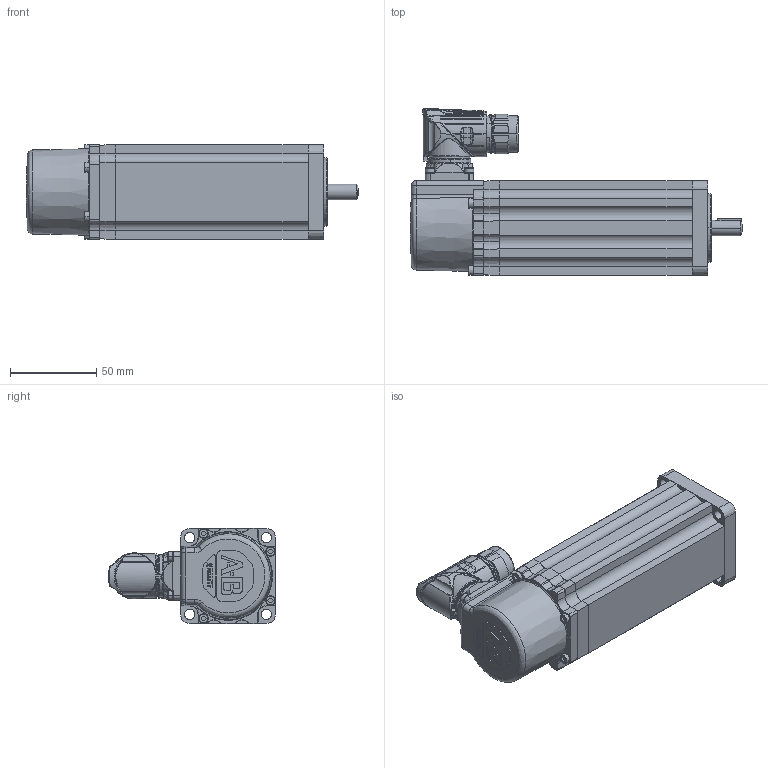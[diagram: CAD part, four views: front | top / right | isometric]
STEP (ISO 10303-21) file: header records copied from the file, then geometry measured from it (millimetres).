
FILE_DESCRIPTION (( 'STEP AP214' ), '1' );
FILE_NAME ('Rockwell Automation-$PARTNUMBER.STEP', '2014-02-13T18:26:56', ( 'Windows User' ), ( '' ), 'SwSTEP 2.0', 'SolidWorks 2014', '' );
FILE_SCHEMA (( 'AUTOMOTIVE_DESIGN' ));
Length unit declared in the file: inch
Products named in the file (23): Rockwell Automation-$PARTNUMBER_Rockwell Automation-VPL-x0633x-xJx2xx_Part21_0633-K; Rockwell Automation-$PARTNUMBER_Rockwell Automation-VPL-x0633x-xJx2xx_PRT0016_Shaft_3_2; Rockwell Automation-$PARTNUMBER_Rockwell Automation-VPL-x0633x-xJx2xx_ASM0006_ASM; Rockwell Automation-$PARTNUMBER; Rockwell Automation-$PARTNUMBER_Rockwell Automation-VPL-x0633x-xJx2xx_ASM0007_ASM; Rockwell Automation-$PARTNUMBER_Rockwell Automation-VPL-x0633x-xJx2xx_ASM0009_ASM; Rockwell Automation-$PARTNUMBER_Rockwell Automation-VPL-x0633x-xJx2xx_PRT0019; Rockwell Automation-$PARTNUMBER_Rockwell Automation-VPL-x0633x-xJx2xx_PRT0018; Rockwell Automation-$PARTNUMBER_Rockwell Automation-VPL-x0633x-xJx2xx_PRT0015; Rockwell Automation-$PARTNUMBER_Rockwell Automation-VPL-x0633x-xJx2xx_ASM0002_ASM; Rockwell Automation-$PARTNUMBER_Rockwell Automation-VPL-x0633x-xJx2xx_ASM0005_ASM; Rockwell Automation-$PARTNUMBER_Rockwell Automation-VPL-x0633x-xJx2xx_PRT0011; Rockwell Automation-$PARTNUMBER_Rockwell Automation-VPL-x0633x-xJx2xx_PRT0010; Rockwell Automation-$PARTNUMBER_Rockwell Automation-VPL-x0633x-xJx2xx_M23_Connector; Rockwell Automation-$PARTNUMBER_Rockwell Automation-VPL-x0633x-xJx2xx_10000014326-M23_ASM; Rockwell Automation-$PARTNUMBER_Rockwell Automation-VPL-x0633x-xJx2xx_10000014326-1; Rockwell Automation-$PARTNUMBER_Rockwell Automation-VPL-x0633x-xJx2xx_10000014325-1; Rockwell Automation-$PARTNUMBER_Rockwell Automation-VPL-x0633x-xJx2xx_10000540833; Rockwell Automation-$PARTNUMBER_Rockwell Automation-VPL-x0633x-xJx2xx_PRT0004; Rockwell Automation-$PARTNUMBER_Rockwell Automation-VPL-x0633x-xJx2xx_PRT0003; Rockwell Automation-$PARTNUMBER_Rockwell Automation-VPL-x0633x-xJx2xx_vpl-063_asm_0633-k; Rockwell Automation-$PARTNUMBER_Rockwell Automation-VPL-x0633x-xJx2xx_PRT0002; Rockwell Automation-$PARTNUMBER_Rockwell Automation-VPL-x0633x-xJx2xx_PRT0017
Assembly tree (33 placements, depth 6):
  Rockwell Automation-$PARTNUMBER
    Rockwell Automation-$PARTNUMBER_Rockwell Automation-VPL-x0633x-xJx2xx_vpl-063_asm_0633-k
      Rockwell Automation-$PARTNUMBER_Rockwell Automation-VPL-x0633x-xJx2xx_Part21_0633-K
      Rockwell Automation-$PARTNUMBER_Rockwell Automation-VPL-x0633x-xJx2xx_ASM0002_ASM
        Rockwell Automation-$PARTNUMBER_Rockwell Automation-VPL-x0633x-xJx2xx_PRT0002  x4
        Rockwell Automation-$PARTNUMBER_Rockwell Automation-VPL-x0633x-xJx2xx_PRT0003  x4
        Rockwell Automation-$PARTNUMBER_Rockwell Automation-VPL-x0633x-xJx2xx_PRT0004  x2
        Rockwell Automation-$PARTNUMBER_Rockwell Automation-VPL-x0633x-xJx2xx_M23_Connector
          Rockwell Automation-$PARTNUMBER_Rockwell Automation-VPL-x0633x-xJx2xx_10000540833
          Rockwell Automation-$PARTNUMBER_Rockwell Automation-VPL-x0633x-xJx2xx_10000014325-1
          Rockwell Automation-$PARTNUMBER_Rockwell Automation-VPL-x0633x-xJx2xx_10000014326-M23_ASM
            Rockwell Automation-$PARTNUMBER_Rockwell Automation-VPL-x0633x-xJx2xx_10000014326-1
        Rockwell Automation-$PARTNUMBER_Rockwell Automation-VPL-x0633x-xJx2xx_ASM0005_ASM
          Rockwell Automation-$PARTNUMBER_Rockwell Automation-VPL-x0633x-xJx2xx_PRT0010
          Rockwell Automation-$PARTNUMBER_Rockwell Automation-VPL-x0633x-xJx2xx_PRT0011  x2
      Rockwell Automation-$PARTNUMBER_Rockwell Automation-VPL-x0633x-xJx2xx_ASM0006_ASM
        Rockwell Automation-$PARTNUMBER_Rockwell Automation-VPL-x0633x-xJx2xx_ASM0007_ASM
          Rockwell Automation-$PARTNUMBER_Rockwell Automation-VPL-x0633x-xJx2xx_PRT0015  x4
          Rockwell Automation-$PARTNUMBER_Rockwell Automation-VPL-x0633x-xJx2xx_PRT0018
          Rockwell Automation-$PARTNUMBER_Rockwell Automation-VPL-x0633x-xJx2xx_ASM0009_ASM
            Rockwell Automation-$PARTNUMBER_Rockwell Automation-VPL-x0633x-xJx2xx_PRT0019
      Rockwell Automation-$PARTNUMBER_Rockwell Automation-VPL-x0633x-xJx2xx_PRT0016_Shaft_3_2
      Rockwell Automation-$PARTNUMBER_Rockwell Automation-VPL-x0633x-xJx2xx_PRT0017
Bounding box: 192.97 x 97.23 x 55.31 mm (x, y, z)
Volume: 145928 mm3; surface area: 138407.4 mm2
Topology: 18 solids, 40 shells, 3077 faces, 8524 edges, 5533 vertices
Faces by surface type: cylinder 994, plane 909, bspline 772, cone 394, torus 8
Entity records: 157654 total; most frequent: CARTESIAN_POINT 86154, ORIENTED_EDGE 14215, DIRECTION 8208, EDGE_CURVE 7127, VERTEX_POINT 4687, B_SPLINE_CURVE_WITH_KNOTS 3708, AXIS2_PLACEMENT_3D 3078, EDGE_LOOP 2701
